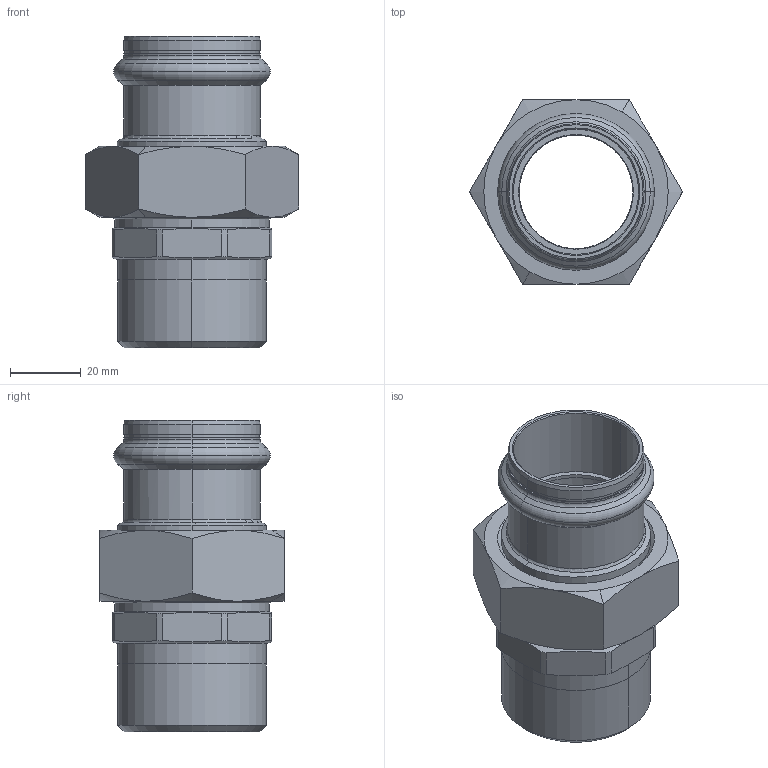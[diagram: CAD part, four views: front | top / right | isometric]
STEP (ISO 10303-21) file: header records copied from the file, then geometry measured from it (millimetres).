
FILE_DESCRIPTION(('CoCreate Modeling STEP Export'),'2;1');
FILE_NAME('8331GVW35114.stp','2013-03-05T12:49:14',(''),(''),'CoCreate Modeling STEP processor for AP214 (Solid Model)','CoCreate Modeling 17.00A 17-Jun-2010 (C) Parametric Technology GmbH','');
FILE_SCHEMA(('AUTOMOTIVE_DESIGN { 1 0 10303 214 1 1 1 1 }'));
Length unit declared in the file: millimetre
Products named in the file (4): DRAAD; MOER; Wartelpuntstuk_C-PR_35x3.1; 8331GVW35114
Assembly tree (3 placements, depth 2):
  8331GVW35114
    Wartelpuntstuk_C-PR_35x3.1
    MOER
    DRAAD
Bounding box: 60.04 x 52 x 87.8 mm (x, y, z)
Volume: 56755.9 mm3; surface area: 31647 mm2
Topology: 3 solids, 3 shells, 132 faces, 306 edges, 184 vertices
Faces by surface type: cylinder 48, cone 48, plane 24, torus 12
Entity records: 4744 total; most frequent: CARTESIAN_POINT 2163, ORIENTED_EDGE 612, DIRECTION 364, EDGE_CURVE 306, VERTEX_POINT 184, EDGE_LOOP 142, AXIS2_PLACEMENT_3D 133, FACE_OUTER_BOUND 132
